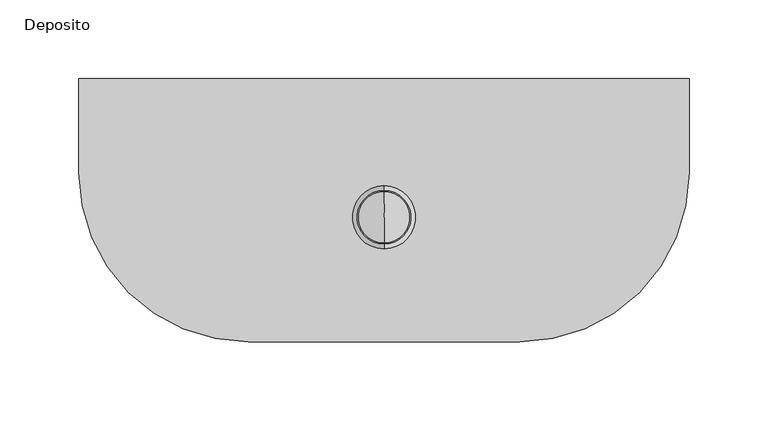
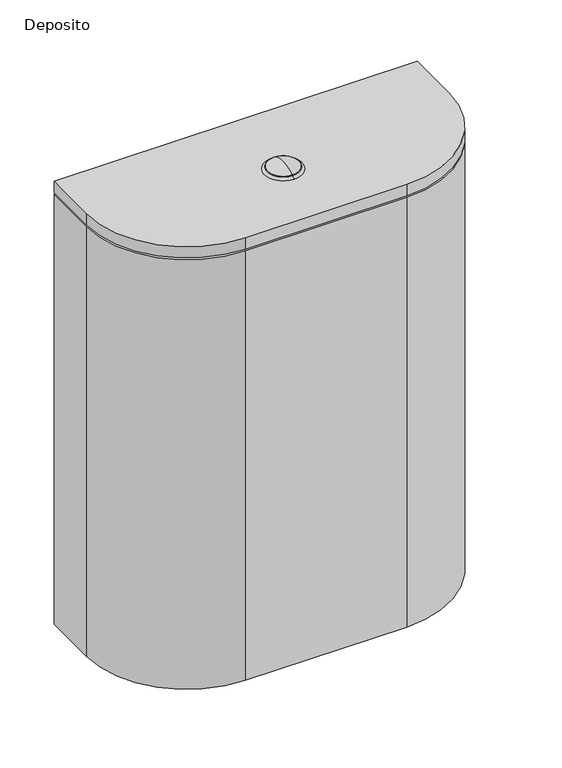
"""IFC4 building model written with IfcOpenShell, lengths in millimetres: flow terminal geometry, Inodoro-Ferrum-Marina-Deposito : Deposito."""

from ifc_helpers import new_model, si_unit, point, frame, frame_2d, origin, origin_with_axes, place, context, project, spatial, polyline, circle_curve, ellipse_curve, trimmed, segment, composite_curve, outline, extrude, source, transform, mapped, element, save
from ifc_brep_helpers import plane_surface, revolved_surface, advanced_brep


def deposito_e05efdb8(model_context):
    return source(origin(), model_context, "Body", "SolidModel", [
        advanced_brep(
        [(0.0, -70.8831483, 501.4619552), (0.0, -104.9863309, 501.4619552), (0.0, -87.9347396, 501.4619552), (0.0, -87.9347396, 499.0046912), (0.0, -107.9347396, 499.0046912), (0.0, -67.9347396, 499.0046912)],
        [
            (0, 1, circle_curve(frame((0.0, -87.9347396, 501.4619552), z_axis=(0.0, 0.0, 1.0), x_axis=(0.0, -1.0, 0.0)), 17.0515913)),
            (1, 2),
            (2, 0),
            (1, 0, circle_curve(frame((0.0, -87.9347396, 501.4619552), z_axis=(0.0, 0.0, 1.0), x_axis=(0.0, -1.0, 0.0)), 17.0515913)),
            (3, 4),
            (4, 5, circle_curve(frame((0.0, -87.9347396, 499.0046912), z_axis=(0.0, 0.0, -1.0), x_axis=(0.0, -1.0, 0.0)), 20.0)),
            (5, 3),
            (5, 4, circle_curve(frame((0.0, -87.9347396, 499.0046912), z_axis=(0.0, 0.0, -1.0), x_axis=(0.0, -1.0, 0.0)), 20.0)),
            (4, 1, circle_curve(frame((0.0, -87.9347396, 478.0046912), z_axis=(-1.0, 0.0, 0.0), x_axis=(0.0, 1.0, 0.0)), 29.0)),
            (0, 5, circle_curve(frame((0.0, -87.9347396, 478.0046912), z_axis=(-1.0, 0.0, 0.0), x_axis=(0.0, -1.0, 0.0)), 29.0)),
        ],
        [
            plane_surface(frame((0.0, -87.9347396, 501.4619552), z_axis=(0.0, 0.0, 1.0), x_axis=(0.0, -1.0, 0.0))),
            plane_surface(frame((0.0, -87.9347396, 499.0046912), z_axis=(0.0, 0.0, -1.0), x_axis=(0.0, -1.0, 0.0))),
            revolved_surface(trimmed(ellipse_curve(frame((0.0, -87.9347396, 478.0046912), z_axis=(1.0, 0.0, 0.0), x_axis=(0.0, 1.0, 0.0)), 29.0, 29.0), [point((0.0, -104.9863309, 501.4619552))], [point((0.0, -107.9347396, 499.0046912))], True, "CARTESIAN"), (0.0, -87.9347396, 510.425048), (0.0, 0.0, -1.0)),
        ],
        [
            (0, [[1, 2, 3]]),
            (0, [[4, -3, -2]]),
            (1, [[5, 6, 7]]),
            (1, [[-7, 8, -5]]),
            (2, [[-6, 9, -1, 10]]),
            (2, [[-8, -10, -4, -9]]),
        ],
    ),
        advanced_brep(
        [(0.0, -87.9347396, 501.9619552), (0.0, -104.2763889, 501.9619552), (0.0, -71.5930903, 501.9619552), (0.0, -87.9347396, 507.0046912)],
        [
            (0, 1),
            (1, 2, circle_curve(frame((0.0, -87.9347396, 501.9619552), z_axis=(0.0, 0.0, -1.0), x_axis=(0.0, -1.0, 0.0)), 16.3416493)),
            (2, 0),
            (2, 1, circle_curve(frame((0.0, -87.9347396, 501.9619552), z_axis=(0.0, 0.0, -1.0), x_axis=(0.0, -1.0, 0.0)), 16.3416493)),
            (1, 3, circle_curve(frame((0.0, -87.9347396, 478.0046912), z_axis=(-1.0, 0.0, 0.0), x_axis=(0.0, 1.0, 0.0)), 29.0)),
            (3, 2, circle_curve(frame((0.0, -87.9347396, 478.0046912), z_axis=(-1.0, 0.0, 0.0), x_axis=(0.0, -1.0, 0.0)), 29.0)),
        ],
        [
            plane_surface(frame((0.0, -87.9347396, 501.9619552), z_axis=(0.0, 0.0, -1.0), x_axis=(0.0, -1.0, 0.0))),
            revolved_surface(trimmed(ellipse_curve(frame((0.0, -87.9347396, 478.0046912), z_axis=(1.0, 0.0, 0.0), x_axis=(0.0, 1.0, 0.0)), 29.0, 29.0), [point((0.0, -87.9347396, 507.0046912))], [point((0.0, -104.2763889, 501.9619552))], True, "CARTESIAN"), (0.0, -87.9347396, 510.425048), (0.0, 0.0, -1.0)),
        ],
        [
            (0, [[1, 2, 3]]),
            (0, [[-3, 4, -1]]),
            (1, [[-2, 5, 6]]),
            (1, [[-4, -6, -5]]),
        ],
    ),
        extrude(outline(composite_curve([segment(polyline([(-193.5, -59.5485553), (-193.5, 0.0), (193.5, 0.0), (193.5, -59.5485553)]), True, "CONTINUOUS"), segment(trimmed(circle_curve(frame_2d((86.0498735, -59.5485553)), 107.4501265), [point((193.5, -59.5485553))], [point((86.0498735, -166.9986818))], False, "CARTESIAN"), True, "CONTINUOUS"), segment(polyline([(86.0498735, -166.9986818), (-86.0498735, -166.9986818)]), True, "CONTINUOUS"), segment(trimmed(circle_curve(frame_2d((-86.0498735, -59.5485553)), 107.4501265), [point((-86.0498735, -166.9986818))], [point((-193.5, -59.5485553))], False, "CARTESIAN"), True, "CONTINUOUS")], self_intersect=False)), frame((0.0, 0.0, 486.3750057), z_axis=(0.0, 0.0, 1.0), x_axis=(1.0, 0.0, 0.0)), (0.0, 0.0, 1.0), 12.6296855),
        extrude(outline(composite_curve([segment(polyline([(-193.5, 0.0), (193.5, 0.0), (193.5, -59.5485553)]), True, "CONTINUOUS"), segment(trimmed(circle_curve(frame_2d((86.0498735, -59.5485553)), 107.4501265), [point((193.5, -59.5485553))], [point((86.0498735, -166.9986818))], False, "CARTESIAN"), True, "CONTINUOUS"), segment(polyline([(86.0498735, -166.9986818), (-86.0498735, -166.9986818)]), True, "CONTINUOUS"), segment(trimmed(circle_curve(frame_2d((-86.0498735, -59.5485553)), 107.4501265), [point((-86.0498735, -166.9986818))], [point((-193.5, -59.5485553))], False, "CARTESIAN"), True, "CONTINUOUS"), segment(polyline([(-193.5, -59.5485553), (-193.5, 0.0)]), True, "CONTINUOUS")], self_intersect=False)), origin_with_axes(), (0.0, 0.0, 1.0), 484.375),
    ])


if __name__ == "__main__":
    model = new_model("IFC4")
    model_context = context("Model", 3, world=origin())
    ifc_project = project(units=[si_unit("LENGTHUNIT", "METRE", prefix="MILLI")], contexts=[model_context])
    site = spatial("IfcSite", under=ifc_project)
    building = spatial("IfcBuilding", under=site)
    placement = place(None, origin())
    deposito_shape = deposito_e05efdb8(model_context)
    element("IfcFlowTerminal", 1, ObjectType="Inodoro-Ferrum-Marina-Deposito : Deposito", at=placement, inside=building, context=model_context, shape_type="MappedRepresentation", body=[
        mapped(deposito_shape, transform((0.0, 0.0, 0.0), x_axis=(1.0, 0.0, 0.0), y_axis=(0.0, 1.0, 0.0), z_axis=(0.0, 0.0, 1.0))),
    ])
    save(model, "model.ifc")
